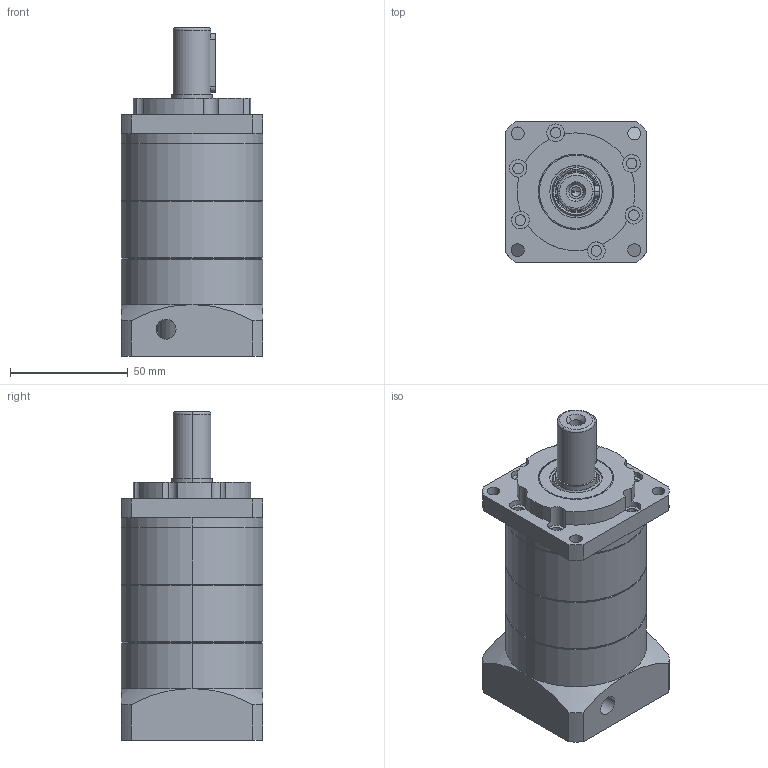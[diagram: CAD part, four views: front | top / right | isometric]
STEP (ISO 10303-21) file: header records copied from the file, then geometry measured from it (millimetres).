
FILE_DESCRIPTION (( 'STEP AP203' ), '1' );
FILE_NAME ('PAW060-L2-14-50-70CZ16.STEP', '2025-04-02T03:28:16', ( 'Windows User' ), ( 'P R C' ), 'SwSTEP 2.0', 'SolidWorks 2016', '' );
FILE_SCHEMA (( 'CONFIG_CONTROL_DESIGN' ));
Length unit declared in the file: millimetre
Products named in the file (9): GB／T276-94深沟球轴承61905-2RZ; PAM60-薊粣_LZ02; PAW60-内齿圈; PAW60-帣釱; TC18-32-7_TC-34.9-55-7; 囀鞠褒蹟佪-M5℅16; 邧埴瑩 5x5x25; PAW060-L2-14-50-70CZ16; PAW60-上蓋版-16-凸台7-（PA输出款）
Assembly tree (9 placements, depth 2):
  PAW060-L2-14-50-70CZ16
    PAW60-上蓋版-16-凸台7-（PA输出款）
    GB／T276-94深沟球轴承61905-2RZ
    PAM60-薊粣_LZ02
    PAW60-内齿圈  x2
    PAW60-帣釱
    TC18-32-7_TC-34.9-55-7
    囀鞠褒蹟佪-M5℅16
    邧埴瑩 5x5x25
Bounding box: 60 x 60 x 139.5 mm (x, y, z)
Volume: 264468 mm3; surface area: 78512.2 mm2
Topology: 9 solids, 9 shells, 1081 faces, 2909 edges, 1909 vertices
Faces by surface type: plane 548, bspline 331, cylinder 165, cone 37
Entity records: 47363 total; most frequent: CARTESIAN_POINT 21550, ORIENTED_EDGE 5742, DIRECTION 4195, EDGE_CURVE 2871, VERTEX_POINT 1891, VECTOR 1539, LINE 1539, AXIS2_PLACEMENT_3D 1328
